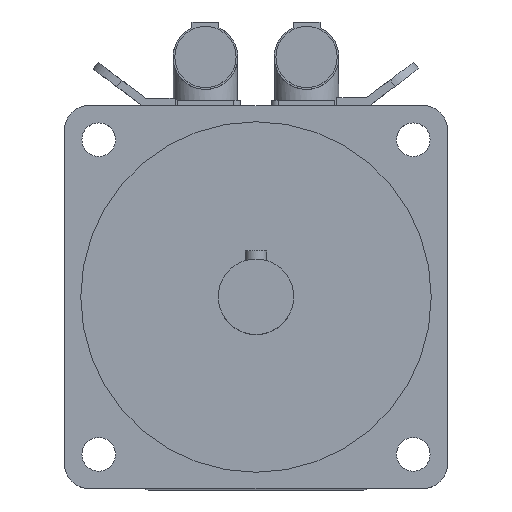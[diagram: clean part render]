
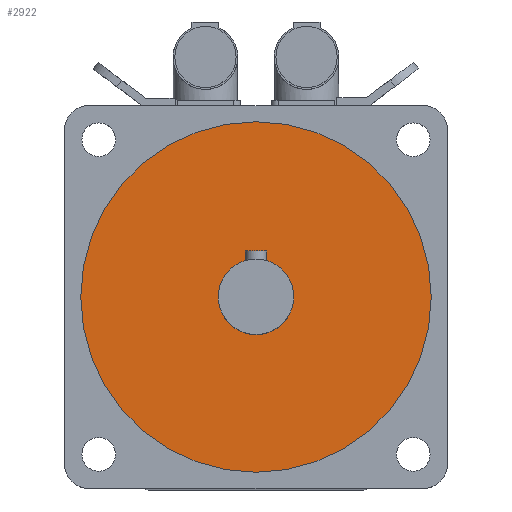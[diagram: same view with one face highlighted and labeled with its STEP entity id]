
A CAD part, top view. The second image highlights one B-rep face of the part: STEP entity #2922.
In plain terms, the highlighted planar face has unit normal (0, 0, 1).
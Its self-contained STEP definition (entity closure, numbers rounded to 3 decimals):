
#614=PLANE('',#3118);
#692=FACE_BOUND('',#926,.T.);
#742=FACE_OUTER_BOUND('',#925,.T.);
#925=EDGE_LOOP('',(#2098));
#926=EDGE_LOOP('',(#2099));
#1112=CIRCLE('',#3113,14.);
#1113=CIRCLE('',#3116,65.);
#1298=VERTEX_POINT('',#4521);
#1299=VERTEX_POINT('',#4525);
#1604=EDGE_CURVE('',#1298,#1298,#1112,.T.);
#1605=EDGE_CURVE('',#1299,#1299,#1113,.T.);
#2098=ORIENTED_EDGE('',*,*,#1605,.T.);
#2099=ORIENTED_EDGE('',*,*,#1604,.T.);
#2922=ADVANCED_FACE('',(#742,#692),#614,.T.);
#3113=AXIS2_PLACEMENT_3D('',#4522,#3545,#3546);
#3116=AXIS2_PLACEMENT_3D('',#4526,#3551,#3552);
#3118=AXIS2_PLACEMENT_3D('',#4529,#3555,#3556);
#3545=DIRECTION('center_axis',(0.,0.,-1.));
#3546=DIRECTION('ref_axis',(-1.,0.,0.));
#3551=DIRECTION('center_axis',(0.,0.,1.));
#3552=DIRECTION('ref_axis',(-1.,0.,0.));
#3555=DIRECTION('center_axis',(0.,0.,1.));
#3556=DIRECTION('ref_axis',(1.,0.,0.));
#4521=CARTESIAN_POINT('',(14.,0.,308.));
#4522=CARTESIAN_POINT('Origin',(0.,0.,308.));
#4525=CARTESIAN_POINT('',(65.,0.,308.));
#4526=CARTESIAN_POINT('Origin',(0.,0.,308.));
#4529=CARTESIAN_POINT('Origin',(0.,0.,308.));
